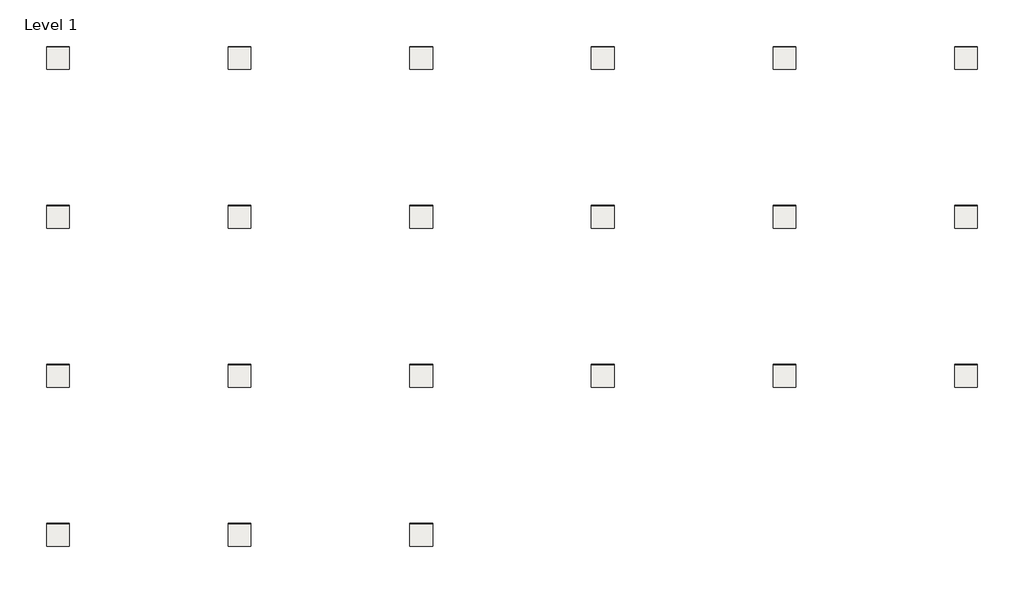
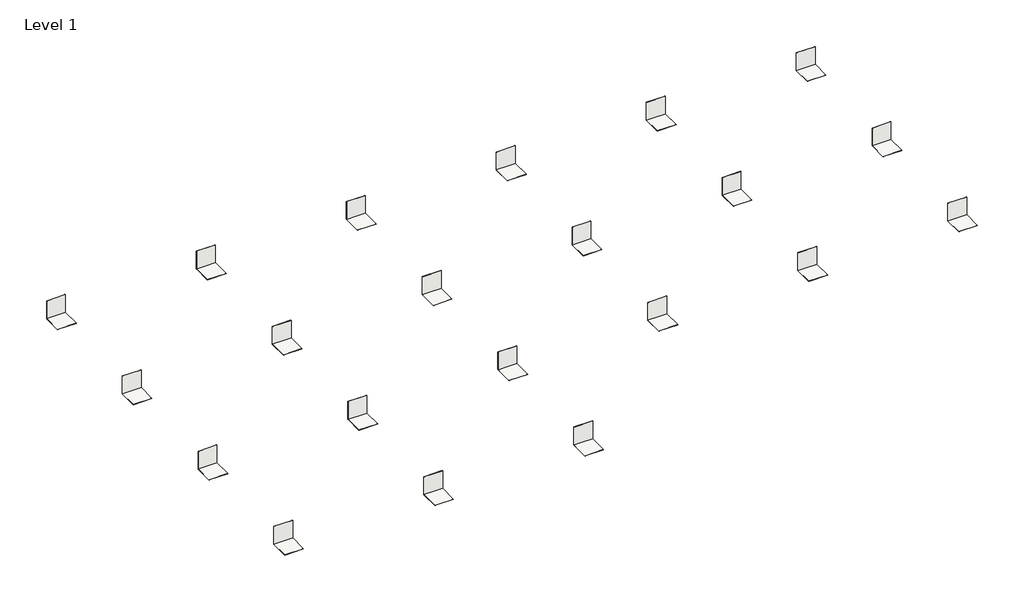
# One storey: 42 coverings.
"""IFC4 building model written with IfcOpenShell, lengths in millimetres."""

from ifc_helpers import new_model, si_unit, frame, origin, origin_with_axes, place, context, project, spatial, polyline, outline, extrude, element, save

model = new_model("IFC4")

# Units and contexts
model_context = context("Model", 3, world=origin())
ifc_project = project(units=[si_unit("LENGTHUNIT", "METRE", prefix="MILLI")], contexts=[model_context])

# Site, building, storey
site = spatial("IfcSite", under=ifc_project)
building = spatial("IfcBuilding", under=site)
storey = spatial("IfcBuildingStorey", under=building, Name="Level 1", Elevation=0.0)

# Coverings
placement = place(None, origin())
element("IfcCovering", 1, ObjectType="REVIGRÉS-CROMATICA-CUBE-9,7x9,7-SOFT-Cromatica_alloy", at=placement, inside=storey, context=model_context, shape_type="SweptSolid", body=[
    extrude(outline(polyline([(4002.0475963, 12398.4324289), (3002.0475963, 12398.4324289), (3002.0475963, 13398.4324289), (4002.0475963, 13398.4324289), (4002.0475963, 12398.4324289)])), frame((0.0, 0.0, -8.5), z_axis=(0.0, 0.0, 1.0), x_axis=(1.0, 0.0, 0.0)), (0.0, 0.0, 1.0), 8.5),
])
element("IfcCovering", 2, ObjectType="REVIGRÉS-CROMATICA-CUBE-9,7x9,7-SOFT-Cromatica_alloy", at=placement, inside=storey, context=model_context, shape_type="SweptSolid", body=[
    extrude(outline(polyline([(4002.0475963, 13398.4324289), (3002.0475963, 13398.4324289), (3002.0475963, 13406.9324289), (4002.0475963, 13406.9324289), (4002.0475963, 13398.4324289)])), origin_with_axes(), (0.0, 0.0, 1.0), 1000.0),
])
element("IfcCovering", 3, ObjectType="REVIGRÉS-CROMATICA-CUBE-9,7x9,7-SOFT-Cromatica_antracite", at=placement, inside=storey, context=model_context, shape_type="SweptSolid", body=[
    extrude(outline(polyline([(12002.0475963, 12398.4324289), (11002.0475963, 12398.4324289), (11002.0475963, 13398.4324289), (12002.0475963, 13398.4324289), (12002.0475963, 12398.4324289)])), frame((0.0, 0.0, -8.5), z_axis=(0.0, 0.0, 1.0), x_axis=(1.0, 0.0, 0.0)), (0.0, 0.0, 1.0), 8.5),
])
element("IfcCovering", 4, ObjectType="REVIGRÉS-CROMATICA-CUBE-9,7x9,7-SOFT-Cromatica_antracite", at=placement, inside=storey, context=model_context, shape_type="SweptSolid", body=[
    extrude(outline(polyline([(12002.0475963, 13398.4324289), (11002.0475963, 13398.4324289), (11002.0475963, 13406.9324289), (12002.0475963, 13406.9324289), (12002.0475963, 13398.4324289)])), origin_with_axes(), (0.0, 0.0, 1.0), 1000.0),
])
element("IfcCovering", 5, ObjectType="REVIGRÉS-CROMATICA-CUBE-9,7x9,7-SOFT-Cromatica_arg prata", at=placement, inside=storey, context=model_context, shape_type="SweptSolid", body=[
    extrude(outline(polyline([(20002.0475963, 12398.4324289), (19002.0475963, 12398.4324289), (19002.0475963, 13398.4324289), (20002.0475963, 13398.4324289), (20002.0475963, 12398.4324289)])), frame((0.0, 0.0, -8.5), z_axis=(0.0, 0.0, 1.0), x_axis=(1.0, 0.0, 0.0)), (0.0, 0.0, 1.0), 8.5),
])
element("IfcCovering", 6, ObjectType="REVIGRÉS-CROMATICA-CUBE-9,7x9,7-SOFT-Cromatica_arg prata", at=placement, inside=storey, context=model_context, shape_type="SweptSolid", body=[
    extrude(outline(polyline([(20002.0475963, 13398.4324289), (19002.0475963, 13398.4324289), (19002.0475963, 13406.9324289), (20002.0475963, 13406.9324289), (20002.0475963, 13398.4324289)])), origin_with_axes(), (0.0, 0.0, 1.0), 1000.0),
])
element("IfcCovering", 7, ObjectType="REVIGRÉS-CROMATICA-CUBE-9,7x9,7-SOFT-Cromatica_bone", at=placement, inside=storey, context=model_context, shape_type="SweptSolid", body=[
    extrude(outline(polyline([(28002.0475963, 12398.4324289), (27002.0475963, 12398.4324289), (27002.0475963, 13398.4324289), (28002.0475963, 13398.4324289), (28002.0475963, 12398.4324289)])), frame((0.0, 0.0, -8.5), z_axis=(0.0, 0.0, 1.0), x_axis=(1.0, 0.0, 0.0)), (0.0, 0.0, 1.0), 8.5),
])
element("IfcCovering", 8, ObjectType="REVIGRÉS-CROMATICA-CUBE-9,7x9,7-SOFT-Cromatica_bone", at=placement, inside=storey, context=model_context, shape_type="SweptSolid", body=[
    extrude(outline(polyline([(28002.0475963, 13398.4324289), (27002.0475963, 13398.4324289), (27002.0475963, 13406.9324289), (28002.0475963, 13406.9324289), (28002.0475963, 13398.4324289)])), origin_with_axes(), (0.0, 0.0, 1.0), 1000.0),
])
element("IfcCovering", 9, ObjectType="REVIGRÉS-CROMATICA-CUBE-9,7x9,7-SOFT-Cromatica_ocre", at=placement, inside=storey, context=model_context, shape_type="SweptSolid", body=[
    extrude(outline(polyline([(44002.0475963, 5398.432429), (43002.0475963, 5398.432429), (43002.0475963, 6398.432429), (44002.0475963, 6398.432429), (44002.0475963, 5398.432429)])), frame((0.0, 0.0, -8.5), z_axis=(0.0, 0.0, 1.0), x_axis=(1.0, 0.0, 0.0)), (0.0, 0.0, 1.0), 8.5),
])
element("IfcCovering", 10, ObjectType="REVIGRÉS-CROMATICA-CUBE-9,7x9,7-SOFT-Cromatica_ocre", at=placement, inside=storey, context=model_context, shape_type="SweptSolid", body=[
    extrude(outline(polyline([(44002.0475963, 6398.432429), (43002.0475963, 6398.432429), (43002.0475963, 6406.932429), (44002.0475963, 6406.932429), (44002.0475963, 6398.432429)])), origin_with_axes(), (0.0, 0.0, 1.0), 1000.0),
])
element("IfcCovering", 11, ObjectType="REVIGRÉS-CROMATICA-CUBE-9,7x9,7-SOFT-Cromatica_oliva", at=placement, inside=storey, context=model_context, shape_type="SweptSolid", body=[
    extrude(outline(polyline([(4002.0475963, -1601.567571), (3002.0475963, -1601.567571), (3002.0475963, -601.567571), (4002.0475963, -601.567571), (4002.0475963, -1601.567571)])), frame((0.0, 0.0, -8.5), z_axis=(0.0, 0.0, 1.0), x_axis=(1.0, 0.0, 0.0)), (0.0, 0.0, 1.0), 8.5),
])
element("IfcCovering", 12, ObjectType="REVIGRÉS-CROMATICA-CUBE-9,7x9,7-SOFT-Cromatica_oliva", at=placement, inside=storey, context=model_context, shape_type="SweptSolid", body=[
    extrude(outline(polyline([(4002.0475963, -601.567571), (3002.0475963, -601.567571), (3002.0475963, -593.067571), (4002.0475963, -593.067571), (4002.0475963, -601.567571)])), origin_with_axes(), (0.0, 0.0, 1.0), 1000.0),
])
element("IfcCovering", 13, ObjectType="REVIGRÉS-CROMATICA-CUBE-9,7x9,7-SOFT-Cromatica_opala", at=placement, inside=storey, context=model_context, shape_type="SweptSolid", body=[
    extrude(outline(polyline([(12002.0475963, -1601.567571), (11002.0475963, -1601.567571), (11002.0475963, -601.567571), (12002.0475963, -601.567571), (12002.0475963, -1601.567571)])), frame((0.0, 0.0, -8.5), z_axis=(0.0, 0.0, 1.0), x_axis=(1.0, 0.0, 0.0)), (0.0, 0.0, 1.0), 8.5),
])
element("IfcCovering", 14, ObjectType="REVIGRÉS-CROMATICA-CUBE-9,7x9,7-SOFT-Cromatica_opala", at=placement, inside=storey, context=model_context, shape_type="SweptSolid", body=[
    extrude(outline(polyline([(12002.0475963, -601.567571), (11002.0475963, -601.567571), (11002.0475963, -593.067571), (12002.0475963, -593.067571), (12002.0475963, -601.567571)])), origin_with_axes(), (0.0, 0.0, 1.0), 1000.0),
])
element("IfcCovering", 15, ObjectType="REVIGRÉS-CROMATICA-CUBE-9,7x9,7-SOFT-Cromatica_platina", at=placement, inside=storey, context=model_context, shape_type="SweptSolid", body=[
    extrude(outline(polyline([(20002.0475963, -1601.567571), (19002.0475963, -1601.567571), (19002.0475963, -601.567571), (20002.0475963, -601.567571), (20002.0475963, -1601.567571)])), frame((0.0, 0.0, -8.5), z_axis=(0.0, 0.0, 1.0), x_axis=(1.0, 0.0, 0.0)), (0.0, 0.0, 1.0), 8.5),
])
element("IfcCovering", 16, ObjectType="REVIGRÉS-CROMATICA-CUBE-9,7x9,7-SOFT-Cromatica_platina", at=placement, inside=storey, context=model_context, shape_type="SweptSolid", body=[
    extrude(outline(polyline([(20002.0475963, -601.567571), (19002.0475963, -601.567571), (19002.0475963, -593.067571), (20002.0475963, -593.067571), (20002.0475963, -601.567571)])), origin_with_axes(), (0.0, 0.0, 1.0), 1000.0),
])
element("IfcCovering", 17, ObjectType="REVIGRÉS-CROMATICA-CUBE-9,7x9,7-SOFT-Cromatica_preto", at=placement, inside=storey, context=model_context, shape_type="SweptSolid", body=[
    extrude(outline(polyline([(28002.0475963, -1601.567571), (27002.0475963, -1601.567571), (27002.0475963, -601.567571), (28002.0475963, -601.567571), (28002.0475963, -1601.567571)])), frame((0.0, 0.0, -8.5), z_axis=(0.0, 0.0, 1.0), x_axis=(1.0, 0.0, 0.0)), (0.0, 0.0, 1.0), 8.5),
])
element("IfcCovering", 18, ObjectType="REVIGRÉS-CROMATICA-CUBE-9,7x9,7-SOFT-Cromatica_preto", at=placement, inside=storey, context=model_context, shape_type="SweptSolid", body=[
    extrude(outline(polyline([(28002.0475963, -601.567571), (27002.0475963, -601.567571), (27002.0475963, -593.067571), (28002.0475963, -593.067571), (28002.0475963, -601.567571)])), origin_with_axes(), (0.0, 0.0, 1.0), 1000.0),
])
element("IfcCovering", 19, ObjectType="REVIGRÉS-CROMATICA-CUBE-9,7x9,7-SOFT-Cromatica_quartz", at=placement, inside=storey, context=model_context, shape_type="SweptSolid", body=[
    extrude(outline(polyline([(36002.0475963, -1601.567571), (35002.0475963, -1601.567571), (35002.0475963, -601.567571), (36002.0475963, -601.567571), (36002.0475963, -1601.567571)])), frame((0.0, 0.0, -8.5), z_axis=(0.0, 0.0, 1.0), x_axis=(1.0, 0.0, 0.0)), (0.0, 0.0, 1.0), 8.5),
])
element("IfcCovering", 20, ObjectType="REVIGRÉS-CROMATICA-CUBE-9,7x9,7-SOFT-Cromatica_quartz", at=placement, inside=storey, context=model_context, shape_type="SweptSolid", body=[
    extrude(outline(polyline([(36002.0475963, -601.567571), (35002.0475963, -601.567571), (35002.0475963, -593.067571), (36002.0475963, -593.067571), (36002.0475963, -601.567571)])), origin_with_axes(), (0.0, 0.0, 1.0), 1000.0),
])
element("IfcCovering", 21, ObjectType="REVIGRÉS-CROMATICA-CUBE-9,7x9,7-SOFT-Cromatica_superbranco", at=placement, inside=storey, context=model_context, shape_type="SweptSolid", body=[
    extrude(outline(polyline([(44002.0475963, -1601.567571), (43002.0475963, -1601.567571), (43002.0475963, -601.567571), (44002.0475963, -601.567571), (44002.0475963, -1601.567571)])), frame((0.0, 0.0, -8.5), z_axis=(0.0, 0.0, 1.0), x_axis=(1.0, 0.0, 0.0)), (0.0, 0.0, 1.0), 8.5),
])
element("IfcCovering", 22, ObjectType="REVIGRÉS-CROMATICA-CUBE-9,7x9,7-SOFT-Cromatica_superbranco", at=placement, inside=storey, context=model_context, shape_type="SweptSolid", body=[
    extrude(outline(polyline([(44002.0475963, -601.567571), (43002.0475963, -601.567571), (43002.0475963, -593.067571), (44002.0475963, -593.067571), (44002.0475963, -601.567571)])), origin_with_axes(), (0.0, 0.0, 1.0), 1000.0),
])
element("IfcCovering", 23, ObjectType="REVIGRÉS-CROMATICA-CUBE-9,7x9,7-SOFT-Cromatica_teal", at=placement, inside=storey, context=model_context, shape_type="SweptSolid", body=[
    extrude(outline(polyline([(4002.0475963, -8601.567571), (3002.0475963, -8601.567571), (3002.0475963, -7601.567571), (4002.0475963, -7601.567571), (4002.0475963, -8601.567571)])), frame((0.0, 0.0, -8.5), z_axis=(0.0, 0.0, 1.0), x_axis=(1.0, 0.0, 0.0)), (0.0, 0.0, 1.0), 8.5),
])
element("IfcCovering", 24, ObjectType="REVIGRÉS-CROMATICA-CUBE-9,7x9,7-SOFT-Cromatica_teal", at=placement, inside=storey, context=model_context, shape_type="SweptSolid", body=[
    extrude(outline(polyline([(4002.0475963, -7601.567571), (3002.0475963, -7601.567571), (3002.0475963, -7593.067571), (4002.0475963, -7593.067571), (4002.0475963, -7601.567571)])), origin_with_axes(), (0.0, 0.0, 1.0), 1000.0),
])
element("IfcCovering", 25, ObjectType="REVIGRÉS-CROMATICA-CUBE-9,7x9,7-SOFT-Cromatica_titanium", at=placement, inside=storey, context=model_context, shape_type="SweptSolid", body=[
    extrude(outline(polyline([(12002.0475963, -8601.567571), (11002.0475963, -8601.567571), (11002.0475963, -7601.567571), (12002.0475963, -7601.567571), (12002.0475963, -8601.567571)])), frame((0.0, 0.0, -8.5), z_axis=(0.0, 0.0, 1.0), x_axis=(1.0, 0.0, 0.0)), (0.0, 0.0, 1.0), 8.5),
])
element("IfcCovering", 26, ObjectType="REVIGRÉS-CROMATICA-CUBE-9,7x9,7-SOFT-Cromatica_titanium", at=placement, inside=storey, context=model_context, shape_type="SweptSolid", body=[
    extrude(outline(polyline([(12002.0475963, -7601.567571), (11002.0475963, -7601.567571), (11002.0475963, -7593.067571), (12002.0475963, -7593.067571), (12002.0475963, -7601.567571)])), origin_with_axes(), (0.0, 0.0, 1.0), 1000.0),
])
element("IfcCovering", 27, ObjectType="REVIGRÉS-CROMATICA-CUBE-9,7x9,7-SOFT-Cromatica_coral", at=placement, inside=storey, context=model_context, shape_type="SweptSolid", body=[
    extrude(outline(polyline([(36002.0475963, 12398.4324289), (35002.0475963, 12398.4324289), (35002.0475963, 13398.4324289), (36002.0475963, 13398.4324289), (36002.0475963, 12398.4324289)])), frame((0.0, 0.0, -8.5), z_axis=(0.0, 0.0, 1.0), x_axis=(1.0, 0.0, 0.0)), (0.0, 0.0, 1.0), 8.5),
])
element("IfcCovering", 28, ObjectType="REVIGRÉS-CROMATICA-CUBE-9,7x9,7-SOFT-Cromatica_coral", at=placement, inside=storey, context=model_context, shape_type="SweptSolid", body=[
    extrude(outline(polyline([(36002.0475963, 13398.4324289), (35002.0475963, 13398.4324289), (35002.0475963, 13406.9324289), (36002.0475963, 13406.9324289), (36002.0475963, 13398.4324289)])), origin_with_axes(), (0.0, 0.0, 1.0), 1000.0),
])
element("IfcCovering", 29, ObjectType="REVIGRÉS-CROMATICA-CUBE-9,7x9,7-SOFT-Cromatica_grafite", at=placement, inside=storey, context=model_context, shape_type="SweptSolid", body=[
    extrude(outline(polyline([(44002.0475963, 12398.4324289), (43002.0475963, 12398.4324289), (43002.0475963, 13398.4324289), (44002.0475963, 13398.4324289), (44002.0475963, 12398.4324289)])), frame((0.0, 0.0, -8.5), z_axis=(0.0, 0.0, 1.0), x_axis=(1.0, 0.0, 0.0)), (0.0, 0.0, 1.0), 8.5),
])
element("IfcCovering", 30, ObjectType="REVIGRÉS-CROMATICA-CUBE-9,7x9,7-SOFT-Cromatica_grafite", at=placement, inside=storey, context=model_context, shape_type="SweptSolid", body=[
    extrude(outline(polyline([(44002.0475963, 13398.4324289), (43002.0475963, 13398.4324289), (43002.0475963, 13406.9324289), (44002.0475963, 13406.9324289), (44002.0475963, 13398.4324289)])), origin_with_axes(), (0.0, 0.0, 1.0), 1000.0),
])
element("IfcCovering", 31, ObjectType="REVIGRÉS-CROMATICA-CUBE-9,7x9,7-SOFT-Cromatica_ice", at=placement, inside=storey, context=model_context, shape_type="SweptSolid", body=[
    extrude(outline(polyline([(4002.0475963, 5398.432429), (3002.0475963, 5398.432429), (3002.0475963, 6398.432429), (4002.0475963, 6398.432429), (4002.0475963, 5398.432429)])), frame((0.0, 0.0, -8.5), z_axis=(0.0, 0.0, 1.0), x_axis=(1.0, 0.0, 0.0)), (0.0, 0.0, 1.0), 8.5),
])
element("IfcCovering", 32, ObjectType="REVIGRÉS-CROMATICA-CUBE-9,7x9,7-SOFT-Cromatica_ice", at=placement, inside=storey, context=model_context, shape_type="SweptSolid", body=[
    extrude(outline(polyline([(4002.0475963, 6398.432429), (3002.0475963, 6398.432429), (3002.0475963, 6406.932429), (4002.0475963, 6406.932429), (4002.0475963, 6398.432429)])), origin_with_axes(), (0.0, 0.0, 1.0), 1000.0),
])
element("IfcCovering", 33, ObjectType="REVIGRÉS-CROMATICA-CUBE-9,7x9,7-SOFT-Cromatica_jade", at=placement, inside=storey, context=model_context, shape_type="SweptSolid", body=[
    extrude(outline(polyline([(12002.0475963, 5398.432429), (11002.0475963, 5398.432429), (11002.0475963, 6398.432429), (12002.0475963, 6398.432429), (12002.0475963, 5398.432429)])), frame((0.0, 0.0, -8.5), z_axis=(0.0, 0.0, 1.0), x_axis=(1.0, 0.0, 0.0)), (0.0, 0.0, 1.0), 8.5),
])
element("IfcCovering", 34, ObjectType="REVIGRÉS-CROMATICA-CUBE-9,7x9,7-SOFT-Cromatica_jade", at=placement, inside=storey, context=model_context, shape_type="SweptSolid", body=[
    extrude(outline(polyline([(12002.0475963, 6398.432429), (11002.0475963, 6398.432429), (11002.0475963, 6406.932429), (12002.0475963, 6406.932429), (12002.0475963, 6398.432429)])), origin_with_axes(), (0.0, 0.0, 1.0), 1000.0),
])
element("IfcCovering", 35, ObjectType="REVIGRÉS-CROMATICA-CUBE-9,7x9,7-SOFT-Cromatica_jet", at=placement, inside=storey, context=model_context, shape_type="SweptSolid", body=[
    extrude(outline(polyline([(20002.0475963, 5398.432429), (19002.0475963, 5398.432429), (19002.0475963, 6398.432429), (20002.0475963, 6398.432429), (20002.0475963, 5398.432429)])), frame((0.0, 0.0, -8.5), z_axis=(0.0, 0.0, 1.0), x_axis=(1.0, 0.0, 0.0)), (0.0, 0.0, 1.0), 8.5),
])
element("IfcCovering", 36, ObjectType="REVIGRÉS-CROMATICA-CUBE-9,7x9,7-SOFT-Cromatica_jet", at=placement, inside=storey, context=model_context, shape_type="SweptSolid", body=[
    extrude(outline(polyline([(20002.0475963, 6398.432429), (19002.0475963, 6398.432429), (19002.0475963, 6406.932429), (20002.0475963, 6406.932429), (20002.0475963, 6398.432429)])), origin_with_axes(), (0.0, 0.0, 1.0), 1000.0),
])
element("IfcCovering", 37, ObjectType="REVIGRÉS-CROMATICA-CUBE-9,7x9,7-SOFT-Cromatica_lava", at=placement, inside=storey, context=model_context, shape_type="SweptSolid", body=[
    extrude(outline(polyline([(36002.0475963, 5398.432429), (35002.0475963, 5398.432429), (35002.0475963, 6398.432429), (36002.0475963, 6398.432429), (36002.0475963, 5398.432429)])), frame((0.0, 0.0, -8.5), z_axis=(0.0, 0.0, 1.0), x_axis=(1.0, 0.0, 0.0)), (0.0, 0.0, 1.0), 8.5),
])
element("IfcCovering", 38, ObjectType="REVIGRÉS-CROMATICA-CUBE-9,7x9,7-SOFT-Cromatica_lava", at=placement, inside=storey, context=model_context, shape_type="SweptSolid", body=[
    extrude(outline(polyline([(36002.0475963, 6398.432429), (35002.0475963, 6398.432429), (35002.0475963, 6406.932429), (36002.0475963, 6406.932429), (36002.0475963, 6398.432429)])), origin_with_axes(), (0.0, 0.0, 1.0), 1000.0),
])
element("IfcCovering", 39, ObjectType="REVIGRÉS-CROMATICA-CUBE-9,7x9,7-SOFT-Cromatica_lagoon", at=placement, inside=storey, context=model_context, shape_type="SweptSolid", body=[
    extrude(outline(polyline([(28002.0475963, 5398.432429), (27002.0475963, 5398.432429), (27002.0475963, 6398.432429), (28002.0475963, 6398.432429), (28002.0475963, 5398.432429)])), frame((0.0, 0.0, -8.5), z_axis=(0.0, 0.0, 1.0), x_axis=(1.0, 0.0, 0.0)), (0.0, 0.0, 1.0), 8.5),
])
element("IfcCovering", 40, ObjectType="REVIGRÉS-CROMATICA-CUBE-9,7x9,7-SOFT-Cromatica_lagoon", at=placement, inside=storey, context=model_context, shape_type="SweptSolid", body=[
    extrude(outline(polyline([(28002.0475963, 6398.432429), (27002.0475963, 6398.432429), (27002.0475963, 6406.932429), (28002.0475963, 6406.932429), (28002.0475963, 6398.432429)])), origin_with_axes(), (0.0, 0.0, 1.0), 1000.0),
])
element("IfcCovering", 41, ObjectType="REVIGRÉS-CROMATICA-CUBE-9,7x9,7-SOFT-Cromatica_toffee", at=placement, inside=storey, context=model_context, shape_type="SweptSolid", body=[
    extrude(outline(polyline([(20002.0475963, -8601.567571), (19002.0475963, -8601.567571), (19002.0475963, -7601.567571), (20002.0475963, -7601.567571), (20002.0475963, -8601.567571)])), frame((0.0, 0.0, -8.5), z_axis=(0.0, 0.0, 1.0), x_axis=(1.0, 0.0, 0.0)), (0.0, 0.0, 1.0), 8.5),
])
element("IfcCovering", 42, ObjectType="REVIGRÉS-CROMATICA-CUBE-9,7x9,7-SOFT-Cromatica_toffee", at=placement, inside=storey, context=model_context, shape_type="SweptSolid", body=[
    extrude(outline(polyline([(20002.0475963, -7601.567571), (19002.0475963, -7601.567571), (19002.0475963, -7593.067571), (20002.0475963, -7593.067571), (20002.0475963, -7601.567571)])), origin_with_axes(), (0.0, 0.0, 1.0), 1000.0),
])

save(model, "model.ifc")
